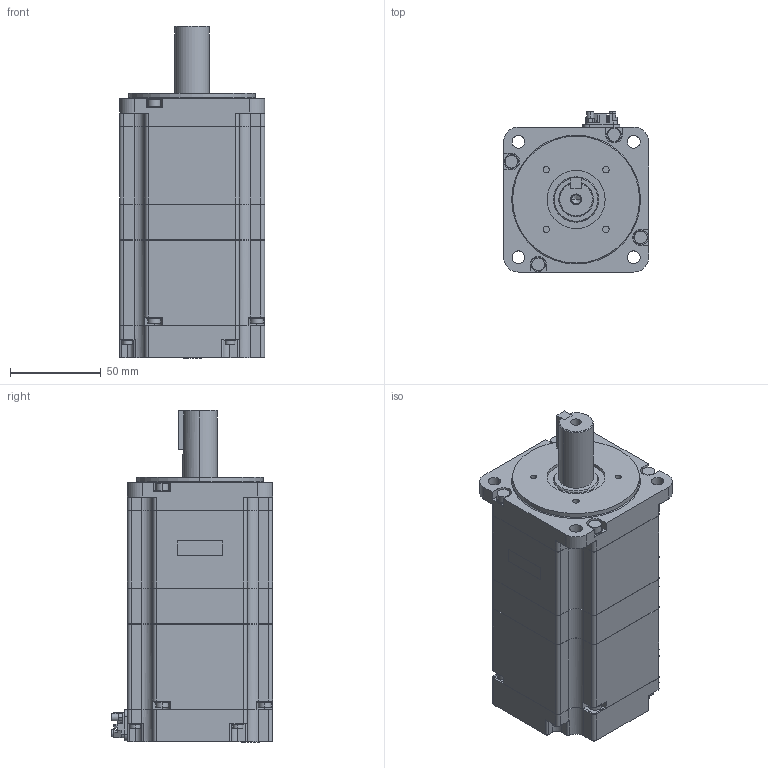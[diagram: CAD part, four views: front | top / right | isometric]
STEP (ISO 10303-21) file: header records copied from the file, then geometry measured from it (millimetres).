
FILE_DESCRIPTION( (''), '2;1');
FILE_NAME ('sgmxj_08aua6ca_.stp','2024-03-08T10:07:32',(''),(''),'spGate 15.6.6','','');
FILE_SCHEMA (('AUTOMOTIVE_DESIGN'));
Length unit declared in the file: millimetre
Products named in the file (3): Assembly; sgmxj_08aua6ca_-prt0; sgmxj_08aua6ca_-prt1
Assembly tree (2 placements, depth 2):
  Assembly
    sgmxj_08aua6ca_-prt0
    sgmxj_08aua6ca_-prt1
Bounding box: 80.1 x 88.8 x 183.1 mm (x, y, z)
Volume: 827242.6 mm3; surface area: 66066 mm2
Topology: 2 solids, 2 shells, 543 faces, 1438 edges, 953 vertices
Faces by surface type: plane 307, cylinder 229, bspline 7
Entity records: 28434 total; most frequent: CARTESIAN_POINT 3168, DIRECTION 2902, ORIENTED_EDGE 2872, COLOUR_RGB 1981, PRESENTATION_STYLE_ASSIGNMENT 1981, STYLED_ITEM 1981, EDGE_CURVE 1436, DRAUGHTING_PRE_DEFINED_CURVE_FONT 1436
